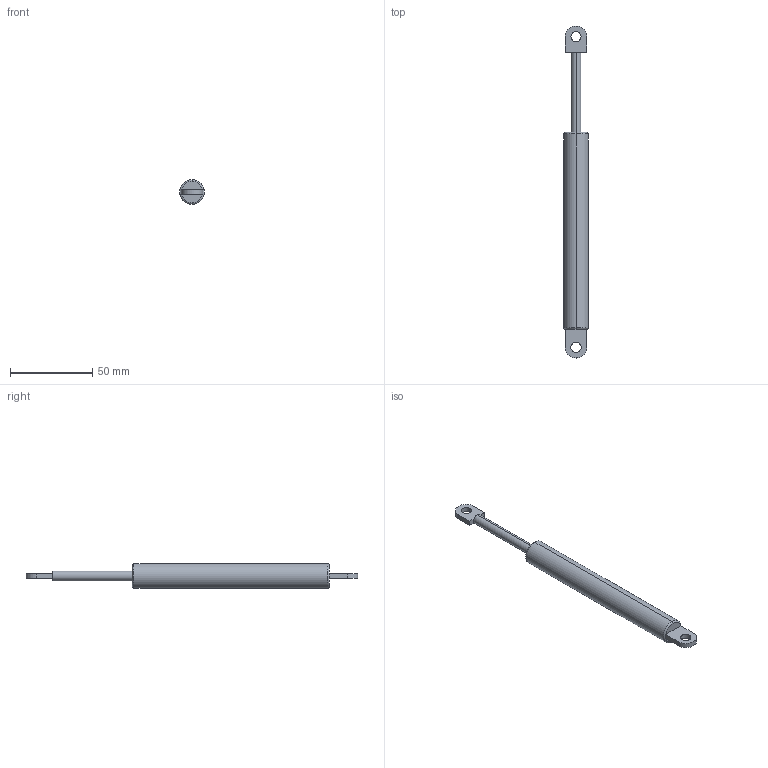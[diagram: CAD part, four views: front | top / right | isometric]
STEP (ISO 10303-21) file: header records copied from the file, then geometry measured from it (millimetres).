
FILE_DESCRIPTION (( 'STEP AP203' ), '1' );
FILE_NAME ('084.527.004.STEP', '2018-03-09T14:24:17', ( '' ), ( '' ), 'SwSTEP 2.0', 'SolidWorks 2016', '' );
FILE_SCHEMA (( 'CONFIG_CONTROL_DESIGN' ));
Length unit declared in the file: millimetre
Products named in the file (3): 084.527.002 - STELO_Default<A macchina>; 084.527.004; 084.527.002 - CORPO
Assembly tree (2 placements, depth 2):
  084.527.004
    084.527.002 - CORPO
    084.527.002 - STELO_Default<A macchina>
Bounding box: 15 x 202.29 x 15 mm (x, y, z)
Volume: 25736.9 mm3; surface area: 9385.3 mm2
Topology: 2 solids, 2 shells, 30 faces, 70 edges, 44 vertices
Faces by surface type: plane 16, cylinder 10, torus 4
Entity records: 1187 total; most frequent: CARTESIAN_POINT 171, DIRECTION 168, ORIENTED_EDGE 140, EDGE_CURVE 70, AXIS2_PLACEMENT_3D 69, VERTEX_POINT 44, CIRCLE 34, EDGE_LOOP 34
